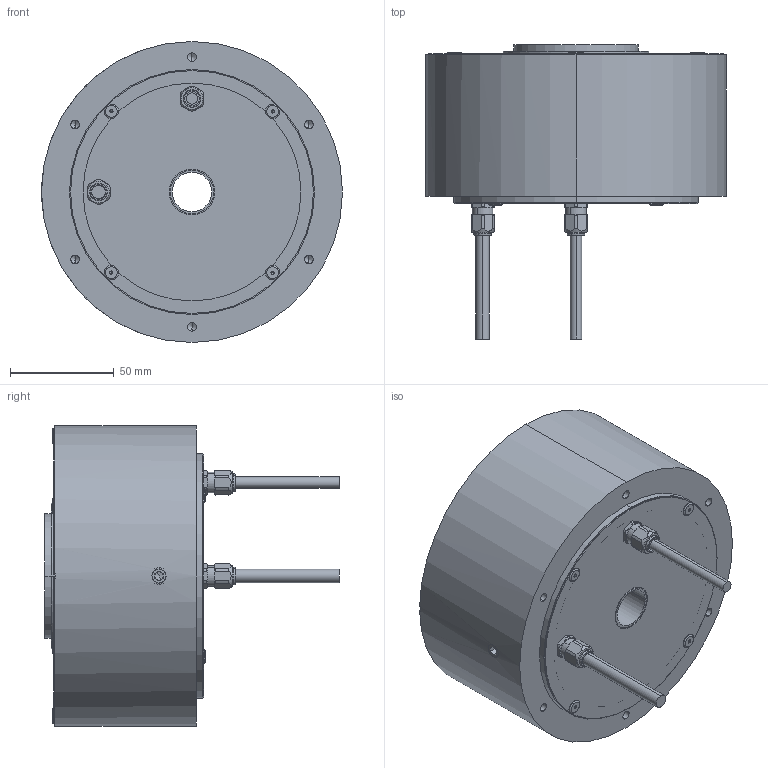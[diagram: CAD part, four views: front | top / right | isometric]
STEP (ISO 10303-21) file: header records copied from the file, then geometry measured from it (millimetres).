
FILE_DESCRIPTION (( 'STEP AP214' ), '1' );
FILE_NAME ('BZA01530.step', '2024-02-05T02:30:14', ( '' ), ( '' ), 'SwSTEP 2.0', 'SolidWorks 2023', '' );
FILE_SCHEMA (( 'AUTOMOTIVE_DESIGN' ));
Length unit declared in the file: millimetre
Products named in the file (1): BZA01530
Bounding box: 145 x 141.8 x 145 mm (x, y, z)
Volume: 255066.1 mm3; surface area: 156405.8 mm2
Topology: 19 solids, 19 shells, 602 faces, 1508 edges, 940 vertices
Faces by surface type: cylinder 353, cone 112, plane 105, torus 22, sphere 10
Entity records: 19217 total; most frequent: CARTESIAN_POINT 4643, DIRECTION 3110, ORIENTED_EDGE 2908, EDGE_CURVE 1454, AXIS2_PLACEMENT_3D 1287, VERTEX_POINT 940, EDGE_LOOP 710, CIRCLE 684
